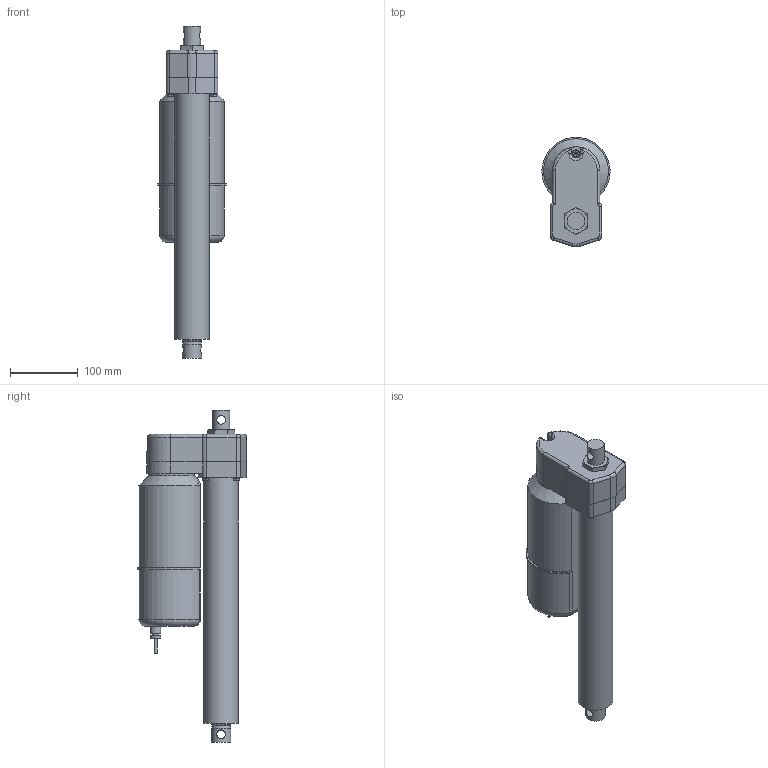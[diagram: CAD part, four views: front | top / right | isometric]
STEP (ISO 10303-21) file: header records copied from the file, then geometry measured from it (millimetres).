
FILE_DESCRIPTION (( 'STEP AP214' ), '1' );
FILE_NAME ('A22-05A5-12M0N-tollo.step', '2020-04-05T11:59:47', ( '' ), ( '' ), 'SwSTEP 2.0', 'SolidWorks 2010', '' );
FILE_SCHEMA (( 'AUTOMOTIVE_DESIGN' ));
Length unit declared in the file: millimetre
Products named in the file (7): Electrak-LA5-Motor-A22-05A5-12M0N-tollo_Electrak-LA5-Motor-A22-05A5-12M0N-tollo; Electrak-LA5-Rear-A22-05A5-12M0N-tollo_Electrak-LA5-Rear-A22-05A5-12M0N-tollo; Electrak-LA5-Tube-A22-05A5-12M0N-tollo_Electrak-LA5-Tube-A22-05A5-12M0N-tollo; Electrak-LA5-Rod-A22-05A5-12M0N-tollo_Electrak-LA5-Rod-A22-05A5-12M0N-tollo; Screw-MFX-H-M5-A22-05A5-12M0N-tollo_Screw-MFX-H-M5-A22-05A5-12M0N-tollo; Screw-M6S-M5-A22-05A5-12M0N-tollo_Screw-M6S-M5-A22-05A5-12M0N-tollo; A22-05A5-12M0N-tollo
Assembly tree (9 placements, depth 2):
  A22-05A5-12M0N-tollo
    Screw-MFX-H-M5-A22-05A5-12M0N-tollo_Screw-MFX-H-M5-A22-05A5-12M0N-tollo
    Screw-M6S-M5-A22-05A5-12M0N-tollo_Screw-M6S-M5-A22-05A5-12M0N-tollo  x4
    Electrak-LA5-Tube-A22-05A5-12M0N-tollo_Electrak-LA5-Tube-A22-05A5-12M0N-tollo
    Electrak-LA5-Rod-A22-05A5-12M0N-tollo_Electrak-LA5-Rod-A22-05A5-12M0N-tollo
    Electrak-LA5-Rear-A22-05A5-12M0N-tollo_Electrak-LA5-Rear-A22-05A5-12M0N-tollo
    Electrak-LA5-Motor-A22-05A5-12M0N-tollo_Electrak-LA5-Motor-A22-05A5-12M0N-tollo
Bounding box: 100.99 x 162.5 x 491.4 mm (x, y, z)
Volume: 2928056.6 mm3; surface area: 275048.8 mm2
Topology: 9 solids, 9 shells, 238 faces, 549 edges, 347 vertices
Faces by surface type: plane 95, cylinder 92, cone 31, torus 15, bspline 3, sphere 2
Full cylindrical faces by diameter (mm): 4 x1, 4.126 x5, 4.8 x2, 5 x13, 7.878 x4, 9.3 x1, 10 x1, 12.8 x2, 15 x2, 25.4 x1, 28.6 x4, 51.3 x1, 68 x1
Entity records: 5776 total; most frequent: CARTESIAN_POINT 1721, DIRECTION 806, ORIENTED_EDGE 666, AXIS2_PLACEMENT_3D 339, EDGE_CURVE 333, EDGE_LOOP 245, VERTEX_POINT 236, FACE_OUTER_BOUND 198
